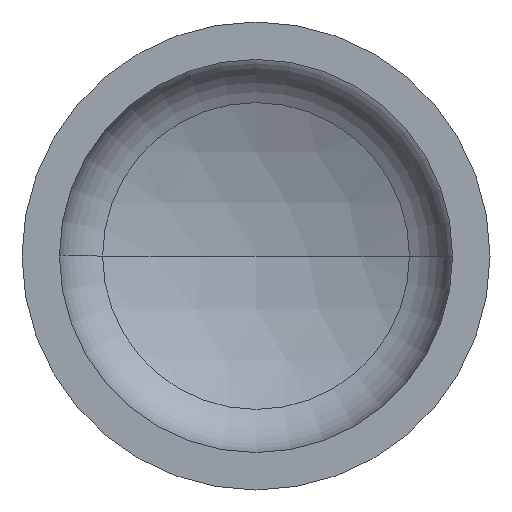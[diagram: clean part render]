
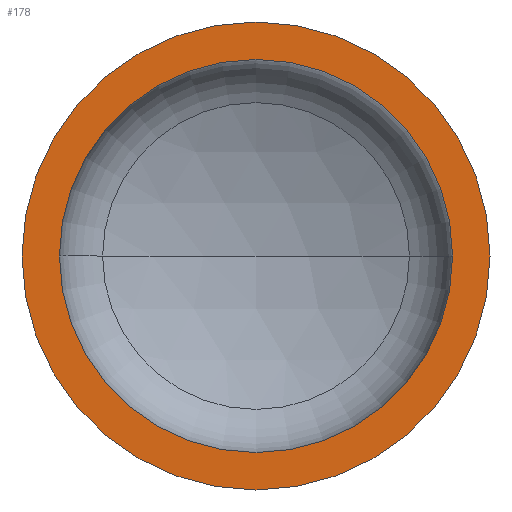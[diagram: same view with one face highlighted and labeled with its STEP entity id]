
A CAD part, front view. The second image highlights one B-rep face of the part: STEP entity #178.
In plain terms, the highlighted planar face has unit normal (0, -1, 0).
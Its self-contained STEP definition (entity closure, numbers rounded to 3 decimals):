
#33 = ORIENTED_EDGE ( 'NONE', *, *, #105, .T. ) ;
#42 = DIRECTION ( 'NONE',  ( 0., 1., 0. ) ) ;
#46 = DIRECTION ( 'NONE',  ( 1., 0., 0. ) ) ;
#49 = ORIENTED_EDGE ( 'NONE', *, *, #106, .F. ) ;
#51 = AXIS2_PLACEMENT_3D ( 'NONE', #150, #42, #264 ) ;
#54 = AXIS2_PLACEMENT_3D ( 'NONE', #233, #205, #204 ) ;
#65 = AXIS2_PLACEMENT_3D ( 'NONE', #259, #256, #142 ) ;
#66 = AXIS2_PLACEMENT_3D ( 'NONE', #278, #286, #285 ) ;
#71 = CARTESIAN_POINT ( 'NONE',  ( 400., 0., 0. ) ) ;
#73 = FACE_BOUND ( 'NONE', #167, .T. ) ;
#77 = CARTESIAN_POINT ( 'NONE',  ( -400., 0., 0. ) ) ;
#82 = AXIS2_PLACEMENT_3D ( 'NONE', #405, #241, #46 ) ;
#86 = CIRCLE ( 'NONE', #66, 400. ) ;
#105 = EDGE_CURVE ( 'NONE', #324, #367, #86, .T. ) ;
#106 = EDGE_CURVE ( 'NONE', #156, #345, #248, .T. ) ;
#132 = EDGE_LOOP ( 'NONE', ( #372, #33 ) ) ;
#142 = DIRECTION ( 'NONE',  ( 1., 0., 0. ) ) ;
#150 = CARTESIAN_POINT ( 'NONE',  ( -400., 0., 0. ) ) ;
#156 = VERTEX_POINT ( 'NONE', #169 ) ;
#167 = EDGE_LOOP ( 'NONE', ( #49, #336 ) ) ;
#169 = CARTESIAN_POINT ( 'NONE',  ( 336., 0., 0. ) ) ;
#174 = CIRCLE ( 'NONE', #82, 336. ) ;
#178 = ADVANCED_FACE ( 'NONE', ( #73, #231 ), #183, .F. ) ;
#183 = PLANE ( 'NONE',  #51 ) ;
#204 = DIRECTION ( 'NONE',  ( 1., 0., 0. ) ) ;
#205 = DIRECTION ( 'NONE',  ( 0., -1., 0. ) ) ;
#231 = FACE_OUTER_BOUND ( 'NONE', #132, .T. ) ;
#233 = CARTESIAN_POINT ( 'NONE',  ( 0., 0., 0. ) ) ;
#241 = DIRECTION ( 'NONE',  ( 0., -1., 0. ) ) ;
#248 = CIRCLE ( 'NONE', #65, 336. ) ;
#256 = DIRECTION ( 'NONE',  ( 0., -1., 0. ) ) ;
#259 = CARTESIAN_POINT ( 'NONE',  ( 0., 0., 0. ) ) ;
#264 = DIRECTION ( 'NONE',  ( -1., 0., 0. ) ) ;
#278 = CARTESIAN_POINT ( 'NONE',  ( 0., 0., 0. ) ) ;
#282 = CIRCLE ( 'NONE', #54, 400. ) ;
#285 = DIRECTION ( 'NONE',  ( 1., 0., 0. ) ) ;
#286 = DIRECTION ( 'NONE',  ( 0., -1., 0. ) ) ;
#297 = EDGE_CURVE ( 'NONE', #367, #324, #282, .T. ) ;
#324 = VERTEX_POINT ( 'NONE', #77 ) ;
#336 = ORIENTED_EDGE ( 'NONE', *, *, #400, .F. ) ;
#345 = VERTEX_POINT ( 'NONE', #389 ) ;
#367 = VERTEX_POINT ( 'NONE', #71 ) ;
#372 = ORIENTED_EDGE ( 'NONE', *, *, #297, .T. ) ;
#389 = CARTESIAN_POINT ( 'NONE',  ( -336., 0., 0. ) ) ;
#400 = EDGE_CURVE ( 'NONE', #345, #156, #174, .T. ) ;
#405 = CARTESIAN_POINT ( 'NONE',  ( 0., 0., 0. ) ) ;
